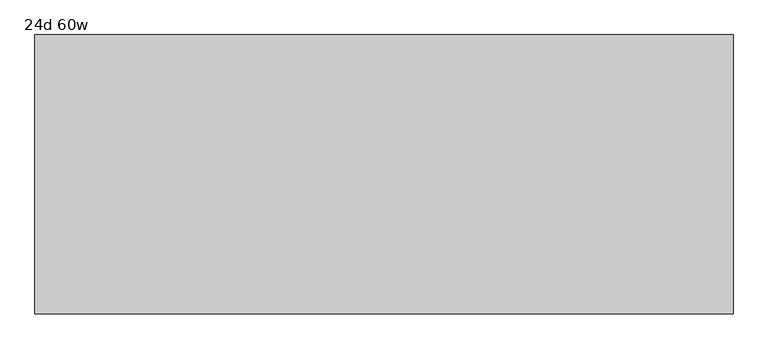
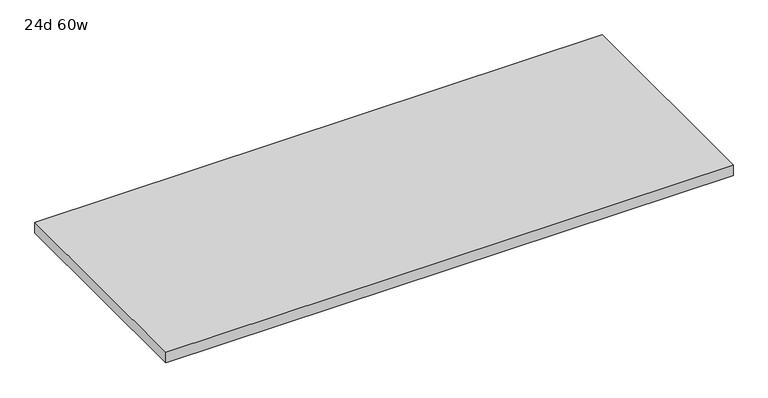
"""IFC4 building model written with IfcOpenShell, lengths in millimetres: furniture geometry, Haworth_Masters_StorageTop_Rectangular1 : 24d 60w."""

from ifc_helpers import new_model, si_unit, frame, origin, place, context, project, spatial, polyline, outline, extrude, source, transform, mapped, element, save


def furniture_24d_60w_d971fc55(model_context):
    return source(origin(), model_context, "Body", "SweptSolid", [
        extrude(outline(polyline([(-23.8125, -407.9875), (1500.1875, -407.9875), (1500.1875, -1017.5875), (-23.8125, -1017.5875), (-23.8125, -407.9875)])), frame((0.0, 0.0, 693.7375), z_axis=(0.0, 0.0, 1.0), x_axis=(1.0, 0.0, 0.0)), (0.0, 0.0, 1.0), 30.1625),
    ])


if __name__ == "__main__":
    model = new_model("IFC4")
    model_context = context("Model", 3, world=origin())
    ifc_project = project(units=[si_unit("LENGTHUNIT", "METRE", prefix="MILLI")], contexts=[model_context])
    site = spatial("IfcSite", under=ifc_project)
    building = spatial("IfcBuilding", under=site)
    placement = place(None, origin())
    furniture_24d_60w_shape = furniture_24d_60w_d971fc55(model_context)
    element("IfcFurniture", 1, ObjectType="Haworth_Masters_StorageTop_Rectangular1 : 24d 60w", at=placement, inside=building, context=model_context, shape_type="MappedRepresentation", body=[
        mapped(furniture_24d_60w_shape, transform((0.0, 0.0, 0.0), x_axis=(1.0, 0.0, 0.0), y_axis=(0.0, 1.0, 0.0), z_axis=(0.0, 0.0, 1.0))),
    ])
    save(model, "model.ifc")
